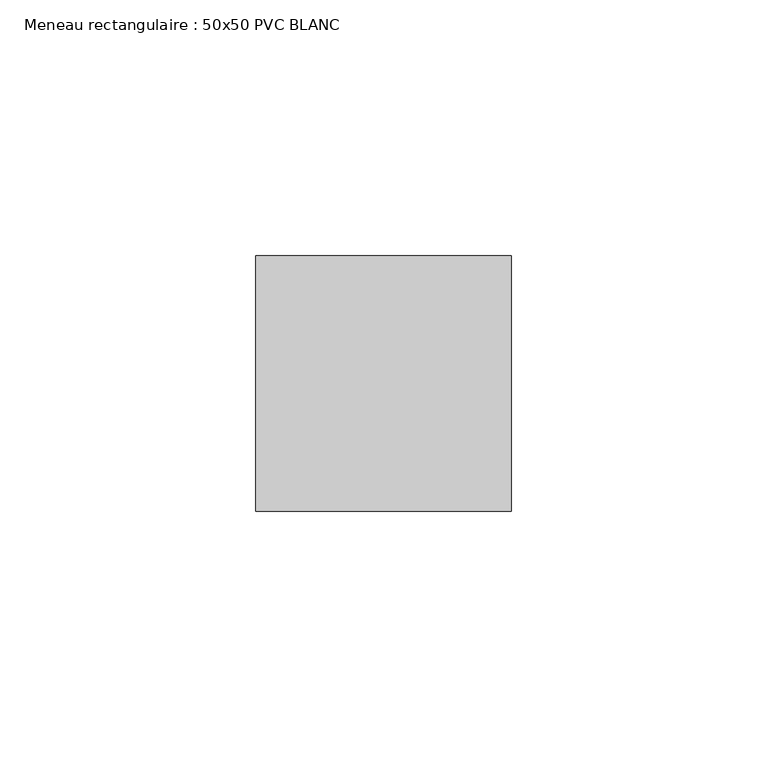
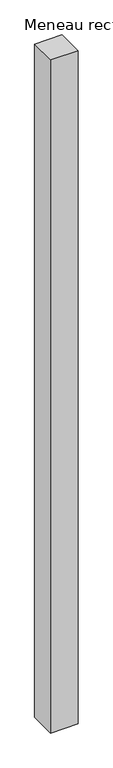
"""IFC4 building model written with IfcOpenShell, lengths in millimetres: member geometry, Meneau rectangulaire : 50x50 PVC BLANC."""

from ifc_helpers import new_model, si_unit, frame, origin, place, context, project, spatial, polyline, outline, extrude, source, transform, mapped, element, save


def meneau_rectangulaire_50x50_pvc_blanc_a4e57621(model_context):
    return source(origin(), model_context, "Body", "SweptSolid", [
        extrude(outline(polyline([(0.0, 0.0), (0.0, -50.0), (-50.0, -50.0), (-50.0, 0.0), (0.0, 0.0)])), frame((0.0, 0.0, -1294.0937083), z_axis=(0.0, 0.0, 1.0), x_axis=(1.0, 0.0, 0.0)), (0.0, 0.0, 1.0), 1294.0937083),
    ])


if __name__ == "__main__":
    model = new_model("IFC4")
    model_context = context("Model", 3, world=origin())
    ifc_project = project(units=[si_unit("LENGTHUNIT", "METRE", prefix="MILLI")], contexts=[model_context])
    site = spatial("IfcSite", under=ifc_project)
    building = spatial("IfcBuilding", under=site)
    placement = place(None, origin())
    meneau_rectangulaire_50x50_pvc_blanc_shape = meneau_rectangulaire_50x50_pvc_blanc_a4e57621(model_context)
    element("IfcMember", 1, ObjectType="Meneau rectangulaire : 50x50 PVC BLANC", at=placement, inside=building, context=model_context, shape_type="MappedRepresentation", body=[
        mapped(meneau_rectangulaire_50x50_pvc_blanc_shape, transform((0.0, 0.0, 0.0), x_axis=(1.0, 0.0, 0.0), y_axis=(0.0, 1.0, 0.0), z_axis=(0.0, 0.0, 1.0))),
    ])
    save(model, "model.ifc")
